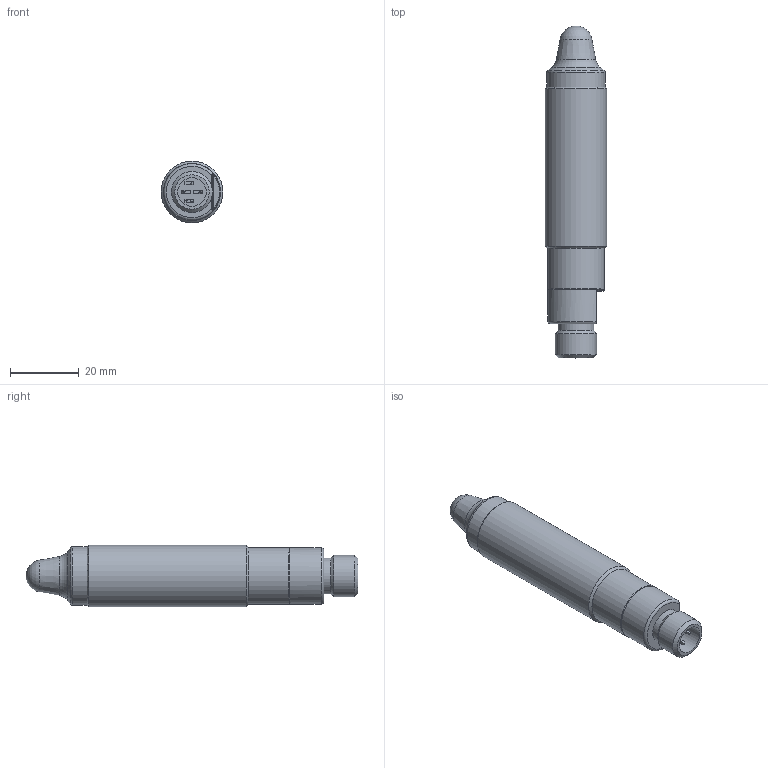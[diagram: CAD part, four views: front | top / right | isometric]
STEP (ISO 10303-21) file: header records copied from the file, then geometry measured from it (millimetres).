
FILE_DESCRIPTION( ( 'Unknown' ), '1' );
FILE_NAME( 'F:/U_Proces/Dokumentation/7000 3D Step filer/7000-/7000077/LBFS_M18_M12.stp', 'Unknown', ( 'Unknown' ), ( 'Unknown' ), 'PSStep 13.0', 'Unknown', ' ' );
FILE_SCHEMA( ( 'AUTOMOTIVE_DESIGN { 1 0 10303 214 1 1 1 1 }' ) );
Length unit declared in the file: millimetre
Products named in the file (1): M12_STIK
Bounding box: 18 x 96.71 x 18 mm (x, y, z)
Surface area: 12104.4 mm2 (no closed solid volume)
Topology: 0 solids, 257 shells, 257 faces, 1270 edges, 1222 vertices
Faces by surface type: plane 181, cylinder 49, cone 14, bspline 5, sphere 4, torus 4
Full cylindrical faces by diameter (mm): 1 x1, 1.5 x1, 1.9 x1, 3.5 x1, 3.9 x1, 4 x3, 7.96 x1, 8 x1, 8.3 x2, 10.4 x1, 12 x1, 13 x1, 14 x1, 14.8 x1, 15 x1, 15.15 x1, 15.45 x2, 15.5 x1, 16 x1, 16.45 x1, 16.6 x1, 17 x1, 18 x1
Entity records: 14469 total; most frequent: CARTESIAN_POINT 3173, DIRECTION 1886, ORIENTED_EDGE 1190, EDGE_CURVE 1190, VERTEX_POINT 1190, LINE 904, VECTOR 904, AXIS2_PLACEMENT_3D 491
